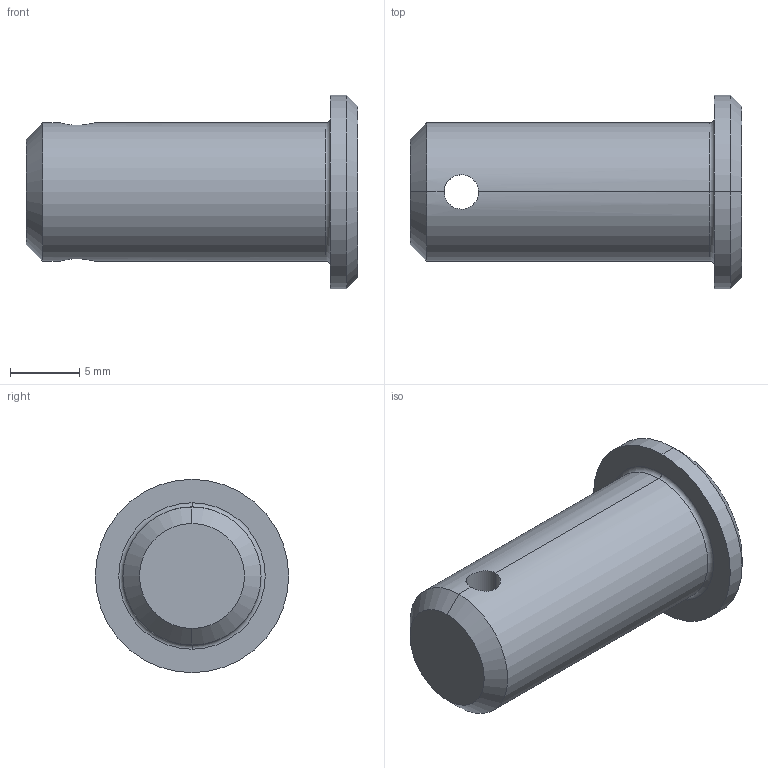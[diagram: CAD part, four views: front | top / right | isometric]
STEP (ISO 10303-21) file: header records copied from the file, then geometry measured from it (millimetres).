
FILE_DESCRIPTION (( 'STEP AP203' ), '1' );
FILE_NAME ('Wiberger-sms2360_10x22.step', '2012-10-09T08:56:46', ( 'Magnus' ), ( 'Wiberger' ), 'SwSTEP 2.0', 'SolidWorks 2011', '' );
FILE_SCHEMA (( 'CONFIG_CONTROL_DESIGN' ));
Length unit declared in the file: millimetre
Products named in the file (1): Wiberger-sms2360_10x22
Bounding box: 24 x 14 x 14 mm (x, y, z)
Volume: 1953.3 mm3; surface area: 1105 mm2
Topology: 1 solids, 1 shells, 15 faces, 32 edges, 18 vertices
Faces by surface type: cylinder 6, cone 4, plane 3, torus 2
Entity records: 555 total; most frequent: CARTESIAN_POINT 146, DIRECTION 76, ORIENTED_EDGE 64, EDGE_CURVE 32, AXIS2_PLACEMENT_3D 32, VERTEX_POINT 18, EDGE_LOOP 16, CIRCLE 16
